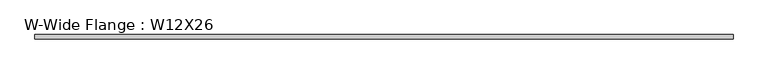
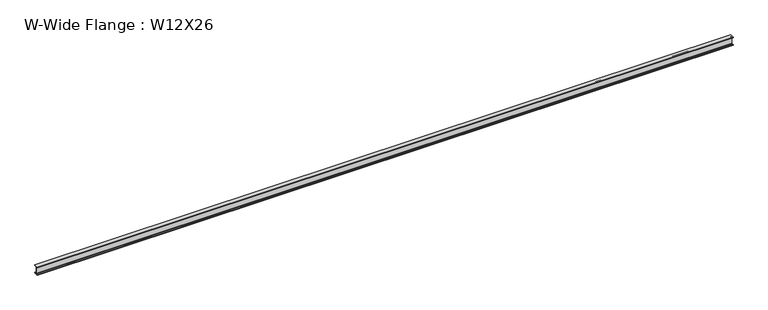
"""IFC4 building model written with IfcOpenShell, lengths in millimetres: beam geometry, W-Wide Flange : W12X26."""

from ifc_helpers import new_model, si_unit, point, frame, frame_2d, origin, place, context, project, spatial, polyline, circle_curve, trimmed, segment, composite_curve, outline, extrude, source, transform, mapped, element, save


def w_wide_flange_w12x26_b5ab591a(model_context):
    return source(origin(), model_context, "Body", "SweptSolid", [
        extrude(outline(composite_curve([segment(polyline([(82.4011719, -145.5539063), (82.4011719, -155.178125), (-82.4011719, -155.178125), (-82.4011719, -145.5539063), (-20.2902344, -145.5539063)]), True, "CONTINUOUS"), segment(trimmed(circle_curve(frame_2d((-20.2902344, -128.190625)), 17.3632812), [point((-20.2902344, -145.5539063))], [point((-2.9269531, -128.190625))], True, "CARTESIAN"), True, "CONTINUOUS"), segment(polyline([(-2.9269531, -128.190625), (-2.9269531, 128.190625)]), True, "CONTINUOUS"), segment(trimmed(circle_curve(frame_2d((-20.2902344, 128.190625)), 17.3632812), [point((-2.9269531, 128.190625))], [point((-20.2902344, 145.5539062))], True, "CARTESIAN"), True, "CONTINUOUS"), segment(polyline([(-20.2902344, 145.5539062), (-82.4011719, 145.5539062), (-82.4011719, 155.178125), (82.4011719, 155.178125), (82.4011719, 145.5539062), (20.2902344, 145.5539062)]), True, "CONTINUOUS"), segment(trimmed(circle_curve(frame_2d((20.2902344, 128.190625)), 17.3632812), [point((20.2902344, 145.5539062))], [point((2.9269531, 128.190625))], True, "CARTESIAN"), True, "CONTINUOUS"), segment(polyline([(2.9269531, 128.190625), (2.9269531, -128.190625)]), True, "CONTINUOUS"), segment(trimmed(circle_curve(frame_2d((20.2902344, -128.190625)), 17.3632812), [point((2.9269531, -128.190625))], [point((20.2902344, -145.5539063))], True, "CARTESIAN"), True, "CONTINUOUS"), segment(polyline([(20.2902344, -145.5539063), (82.4011719, -145.5539063)]), True, "CONTINUOUS")], self_intersect=False)), frame((-13119.1, 0.0, 0.0), z_axis=(1.0, 0.0, 0.0), x_axis=(0.0, 1.0, 0.0)), (0.0, 0.0, 1.0), 26238.2),
    ])


if __name__ == "__main__":
    model = new_model("IFC4")
    model_context = context("Model", 3, world=origin())
    ifc_project = project(units=[si_unit("LENGTHUNIT", "METRE", prefix="MILLI")], contexts=[model_context])
    site = spatial("IfcSite", under=ifc_project)
    building = spatial("IfcBuilding", under=site)
    placement = place(None, origin())
    w_wide_flange_w12x26_shape = w_wide_flange_w12x26_b5ab591a(model_context)
    element("IfcBeam", 1, ObjectType="W-Wide Flange : W12X26", at=placement, inside=building, context=model_context, shape_type="MappedRepresentation", body=[
        mapped(w_wide_flange_w12x26_shape, transform((0.0, 0.0, 0.0), x_axis=(1.0, 0.0, 0.0), y_axis=(0.0, 1.0, 0.0), z_axis=(0.0, 0.0, 1.0))),
    ])
    save(model, "model.ifc")
